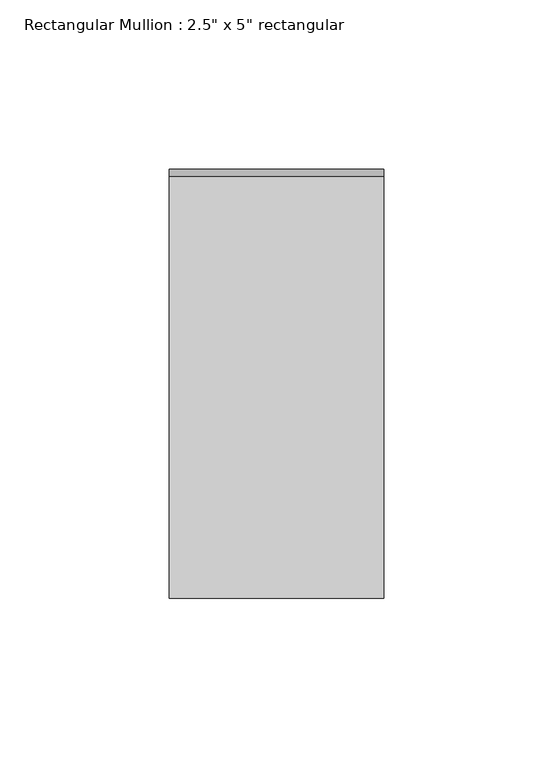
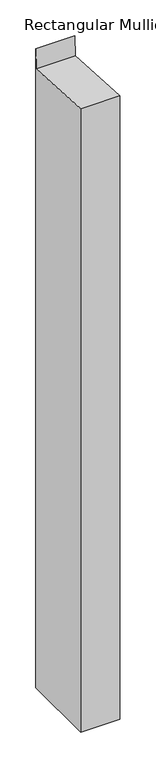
"""IFC4 building model written with IfcOpenShell, lengths in millimetres: member geometry."""

from ifc_helpers import new_model, si_unit, frame, origin, place, context, project, spatial, polyline, outline, extrude, source, transform, mapped, element, save


def member_5098c466(model_context):
    return source(origin(), model_context, "Body", "SweptSolid", [
        extrude(outline(polyline([(-63.5, 3.9106228), (61.3936206, -3.9029921), (63.5, 29.7655912), (63.5, -1066.0825096), (-63.5, -1066.0825096), (-63.5, 3.9106228)])), frame((-63.5, 0.0, 0.0), z_axis=(1.0, 0.0, 0.0), x_axis=(0.0, 1.0, 0.0)), (0.0, 0.0, 1.0), 63.5),
    ])


if __name__ == "__main__":
    model = new_model("IFC4")
    model_context = context("Model", 3, world=origin())
    ifc_project = project(units=[si_unit("LENGTHUNIT", "METRE", prefix="MILLI")], contexts=[model_context])
    site = spatial("IfcSite", under=ifc_project)
    building = spatial("IfcBuilding", under=site)
    placement = place(None, origin())
    member_shape = member_5098c466(model_context)
    element("IfcMember", 1, ObjectType="Rectangular Mullion : 2.5\" x 5\" rectangular", at=placement, inside=building, context=model_context, shape_type="MappedRepresentation", body=[
        mapped(member_shape, transform((0.0, 0.0, 0.0), x_axis=(1.0, 0.0, 0.0), y_axis=(0.0, 1.0, 0.0), z_axis=(0.0, 0.0, 1.0))),
    ])
    save(model, "model.ifc")
